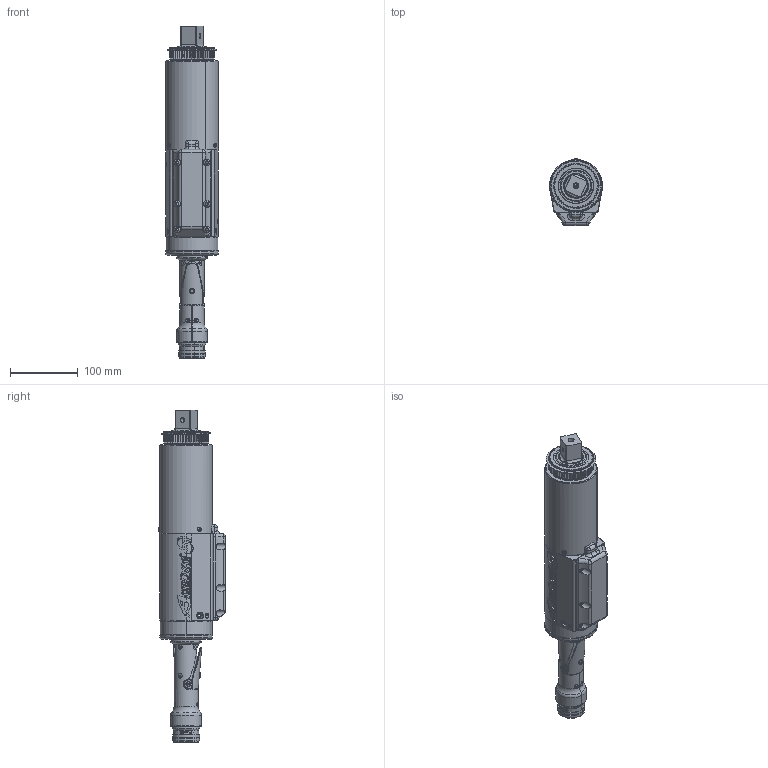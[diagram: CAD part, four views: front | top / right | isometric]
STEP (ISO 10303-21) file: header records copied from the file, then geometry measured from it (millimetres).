
FILE_DESCRIPTION (( 'STEP AP214' ), '1' );
FILE_NAME ('AES4A773000B.STEP', '2016-04-05T18:35:42', ( 'AIMCO' ), ( '' ), 'SwSTEP 2.0', 'SolidWorks 2016', '' );
FILE_SCHEMA (( 'AUTOMOTIVE_DESIGN' ));
Length unit declared in the file: inch
Products named in the file (1): AES4A773000B
Bounding box: 77.47 x 98.5 x 488.28 mm (x, y, z)
Surface area: 197621 mm2 (no closed solid volume)
Topology: 0 solids, 94 shells, 1380 faces, 5538 edges, 4038 vertices
Faces by surface type: cylinder 412, plane 377, bspline 263, torus 165, cone 151, sphere 12
Entity records: 146076 total; most frequent: CARTESIAN_POINT 87545, ORIENTED_EDGE 8360, DIRECTION 7073, EDGE_CURVE 5532, VERTEX_POINT 4038, AXIS2_PLACEMENT_3D 2601, VECTOR 1871, LINE 1871
